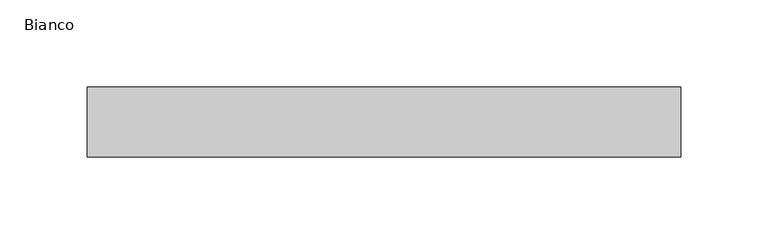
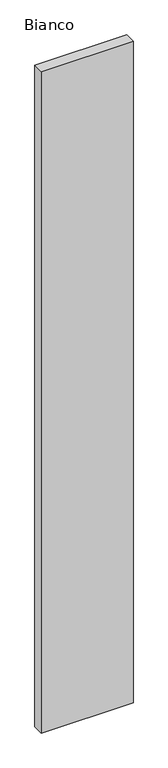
"""IFC4 building model written with IfcOpenShell, lengths in millimetres: plate geometry, Lod 200 Regolare 800 Vertical : Bianco."""

from ifc_helpers import new_model, si_unit, origin, origin_with_axes, place, context, project, spatial, polyline, outline, extrude, source, transform, mapped, element, save


def bianco_022fd048(model_context):
    return source(origin(), model_context, "Body", "SweptSolid", [
        extrude(outline(polyline([(170.0, 40.0), (170.0, 0.0), (-170.0, 0.0), (-170.0, 40.0), (170.0, 40.0)])), origin_with_axes(), (0.0, 0.0, 1.0), 2588.190451),
    ])


if __name__ == "__main__":
    model = new_model("IFC4")
    model_context = context("Model", 3, world=origin())
    ifc_project = project(units=[si_unit("LENGTHUNIT", "METRE", prefix="MILLI")], contexts=[model_context])
    site = spatial("IfcSite", under=ifc_project)
    building = spatial("IfcBuilding", under=site)
    placement = place(None, origin())
    bianco_shape = bianco_022fd048(model_context)
    element("IfcPlate", 1, ObjectType="Lod 200 Regolare 800 Vertical : Bianco", at=placement, inside=building, context=model_context, shape_type="MappedRepresentation", body=[
        mapped(bianco_shape, transform((0.0, 0.0, 0.0), x_axis=(1.0, 0.0, 0.0), y_axis=(0.0, 1.0, 0.0), z_axis=(0.0, 0.0, 1.0))),
    ])
    save(model, "model.ifc")
